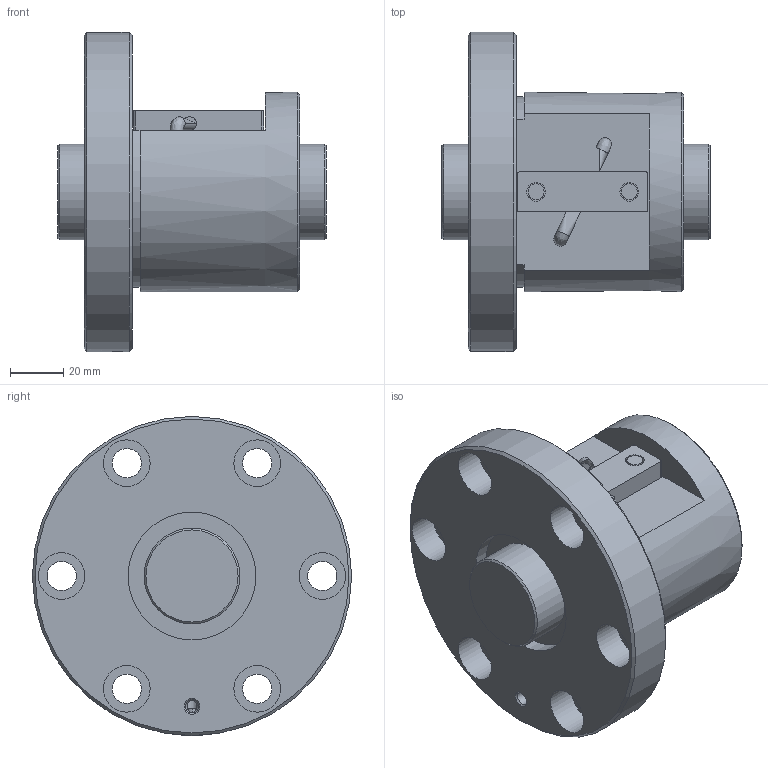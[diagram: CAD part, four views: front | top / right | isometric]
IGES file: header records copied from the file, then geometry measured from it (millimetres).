
Start section: Data from Parasolid IGES Translator 26.0.171, Copyright(c) 2006 Siemens PLM Software. All Rights Reserved.
Global section: file name: BNF3610V-2.5RRG1+101LC0_000_rev.igs; native system: By Siemens PLM Incorporated; preprocessor: XPlus GENERIC/IGES 26.0.171; author: Noname; organization: Noname; date: 20240806.083903; units: millimetre
Bounding box: 101 x 120 x 120 mm (x, y, z)
Surface area: 71904 mm2 (no closed solid volume)
Topology: 0 solids, 0 shells, 71 faces, 310 edges, 262 vertices
Faces by surface type: revolution 44, extrusion 27
